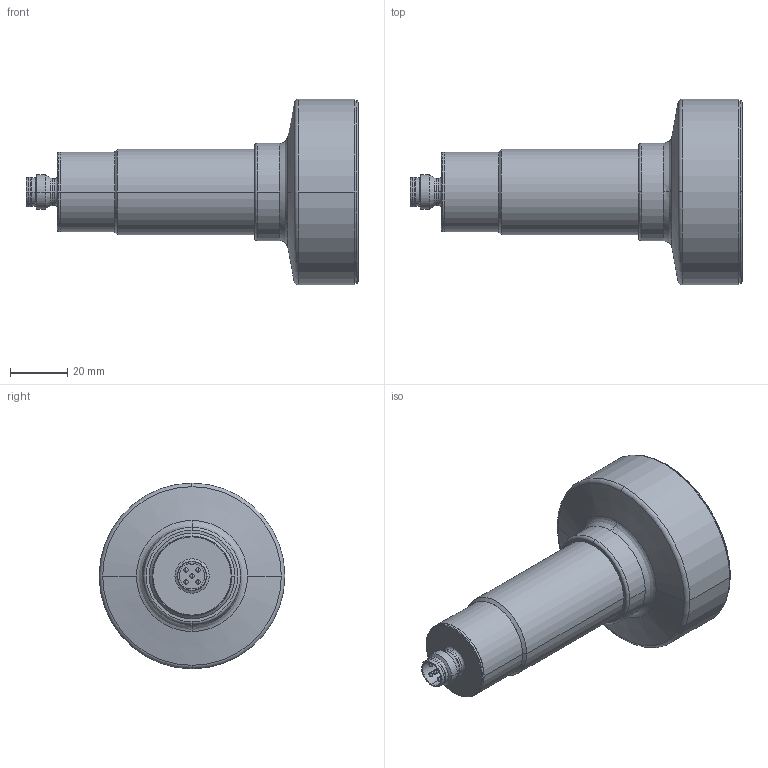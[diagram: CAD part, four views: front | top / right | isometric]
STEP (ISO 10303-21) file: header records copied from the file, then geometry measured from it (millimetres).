
FILE_DESCRIPTION((''),'2;1');
FILE_NAME('C:\Dokumente und Einstellungen\Kramp\Eigene Dateien\Microsonic Nacharb 1\STP\mic-600_XX_M.stp','2005-08-09T11:31:05',('Kramp'),(''),'Autodesk Inventor 7','Autodesk Inventor 7','');
FILE_SCHEMA(('AUTOMOTIVE_DESIGN { 1 0 10303 214 1 1 1 1 }'));
Length unit declared in the file: millimetre
Products named in the file (1): mic-600_XX_M
Bounding box: 116.2 x 65 x 65 mm (x, y, z)
Volume: 136538.7 mm3; surface area: 19217.8 mm2
Topology: 1 solids, 1 shells, 85 faces, 209 edges, 119 vertices
Faces by surface type: cylinder 33, cone 16, sphere 10, bspline 9, plane 9, torus 8
Entity records: 2702 total; most frequent: CARTESIAN_POINT 695, DIRECTION 481, ORIENTED_EDGE 378, AXIS2_PLACEMENT_3D 215, EDGE_CURVE 189, CIRCLE 138, VERTEX_POINT 119, EDGE_LOOP 98
